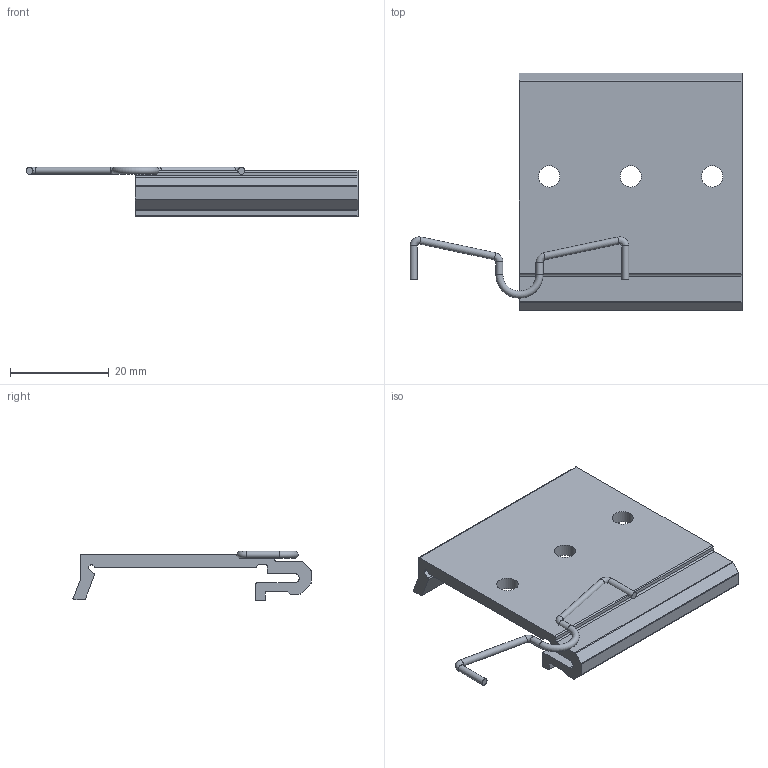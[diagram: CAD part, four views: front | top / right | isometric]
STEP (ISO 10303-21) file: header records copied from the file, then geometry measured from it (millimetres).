
FILE_DESCRIPTION(/* description */ ('Alibre Inc.'),/* implementation_level */ '2;1');
FILE_NAME(/* name */ 'export0',/* time_stamp */ '2008-02-21T17:29:57-08:00',/* author */ (''),/* organization */ (''),/* preprocessor_version */ 'ST-DEVELOPER v10',/* originating_system */ 'Alibre',/* authorisation */ '');
FILE_SCHEMA (('ALIBRE_SCHEMA','CONFIG_CONTROL_DESIGN'));
Length unit declared in the file: centimetre
Products named in the file (3): ID_1; ID_2; ID_3
Bounding box: 67.25 x 48.21 x 10.04 mm (x, y, z)
Volume: 7322.2 mm3; surface area: 7093.2 mm2
Topology: 2 solids, 2 shells, 73 faces, 194 edges, 126 vertices
Faces by surface type: cylinder 36, plane 32, torus 5
Full cylindrical faces by diameter (mm): 1.422 x6, 4.318 x3
Entity records: 5973 total; most frequent: CARTESIAN_POINT 921, DIRECTION 504, CONSTRAINTPAIRUV 407, ORIENTED_EDGE 360, REFERENCEDEPENDENTUV 353, VECTOR 206, REFERENCEPOINTUV 193, EDGE_CURVE 180
